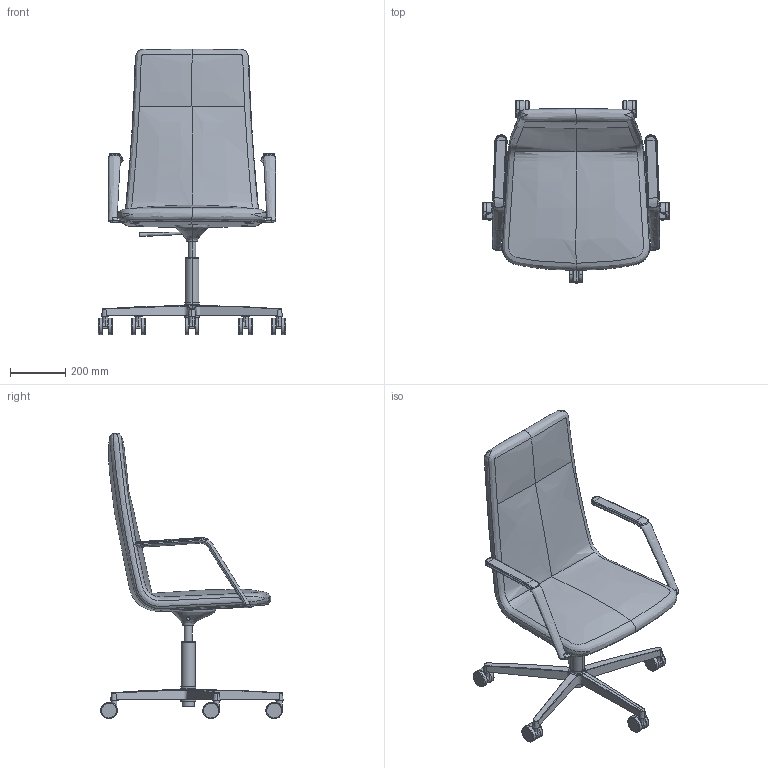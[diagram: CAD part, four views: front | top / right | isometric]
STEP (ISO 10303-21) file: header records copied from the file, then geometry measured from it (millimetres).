
FILE_DESCRIPTION(/* description */ (''),/* implementation_level */ '2;1');
FILE_NAME(/* name */ 'HA45B4~1',/* time_stamp */ '2016-07-26T15:20:39+02:00',/* author */ (''),/* organization */ (''),/* preprocessor_version */ 'ST-DEVELOPER v15',/* originating_system */ '',/* authorisation */ '');
FILE_SCHEMA (('CONFIG_CONTROL_DESIGN'));
Length unit declared in the file: millimetre
Products named in the file (1): Document
Bounding box: 677.7 x 659.5 x 1032.31 mm (x, y, z)
Volume: 188724.9 mm3; surface area: 1571434.6 mm2
Topology: 5 solids, 35 shells, 251 faces, 569 edges, 355 vertices
Faces by surface type: bspline 200, plane 51
Entity records: 19980 total; most frequent: CARTESIAN_POINT 16757, ORIENTED_EDGE 1019, EDGE_CURVE 562, VERTEX_POINT 349, EDGE_LOOP 253, ADVANCED_FACE 251, FACE_OUTER_BOUND 251, B_SPLINE_CURVE_WITH_KNOTS 169
